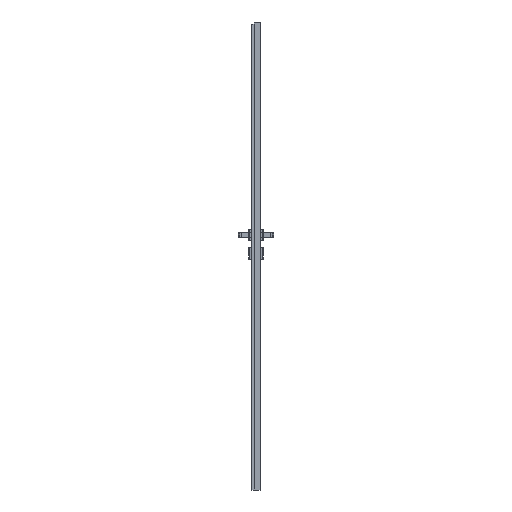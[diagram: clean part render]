
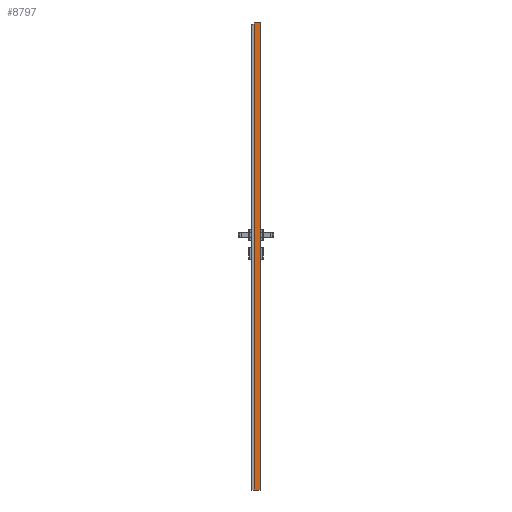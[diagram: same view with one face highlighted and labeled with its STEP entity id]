
A CAD part, left-side view. The second image highlights one B-rep face of the part: STEP entity #8797.
In plain terms, the highlighted planar face has unit normal (-1, 0, 0).
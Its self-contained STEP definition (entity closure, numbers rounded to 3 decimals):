
#5063=FACE_OUTER_BOUND('',#15821,.T.);
#8797=ADVANCED_FACE('',(#5063),#12549,.F.);
#12549=PLANE('',#62734);
#15821=EDGE_LOOP('',(#21181,#21182,#21183,#21184,#21185));
#21181=ORIENTED_EDGE('',*,*,#42884,.T.);
#21182=ORIENTED_EDGE('',*,*,#42885,.T.);
#21183=ORIENTED_EDGE('',*,*,#42850,.F.);
#21184=ORIENTED_EDGE('',*,*,#42875,.F.);
#21185=ORIENTED_EDGE('',*,*,#42880,.T.);
#37506=VERTEX_POINT('',#81087);
#37507=VERTEX_POINT('',#81088);
#37529=VERTEX_POINT('',#81138);
#37532=VERTEX_POINT('',#81149);
#37533=VERTEX_POINT('',#81155);
#42850=EDGE_CURVE('',#37506,#37507,#51190,.T.);
#42875=EDGE_CURVE('',#37529,#37506,#51215,.T.);
#42880=EDGE_CURVE('',#37529,#37532,#51220,.T.);
#42884=EDGE_CURVE('',#37532,#37533,#51224,.T.);
#42885=EDGE_CURVE('',#37533,#37507,#51225,.T.);
#51190=LINE('',#81086,#56890);
#51215=LINE('',#81139,#56915);
#51220=LINE('',#81148,#56920);
#51224=LINE('',#81154,#56924);
#51225=LINE('',#81156,#56925);
#56890=VECTOR('',#66569,1.);
#56915=VECTOR('',#66602,1.);
#56920=VECTOR('',#66611,1.);
#56924=VECTOR('',#66617,1.);
#56925=VECTOR('',#66618,1.);
#62734=AXIS2_PLACEMENT_3D('',#81157,#66619,#66620);
#66569=DIRECTION('',(0.,0.,-1.));
#66602=DIRECTION('',(0.,-1.,0.));
#66611=DIRECTION('',(0.,0.,-1.));
#66617=DIRECTION('',(0.,-1.,0.));
#66618=DIRECTION('',(0.,-0.707,0.707));
#66619=DIRECTION('',(1.,0.,0.));
#66620=DIRECTION('',(0.,0.,-1.));
#81086=CARTESIAN_POINT('',(-319.5,-39.3,2027.));
#81087=CARTESIAN_POINT('',(-319.5,-39.3,2027.));
#81088=CARTESIAN_POINT('',(-319.5,-39.3,2.));
#81138=CARTESIAN_POINT('',(-319.5,-11.5,2027.));
#81139=CARTESIAN_POINT('',(-319.5,-11.5,2027.));
#81148=CARTESIAN_POINT('',(-319.5,-11.5,2027.));
#81149=CARTESIAN_POINT('',(-319.5,-11.5,0.));
#81154=CARTESIAN_POINT('',(-319.5,-11.5,0.));
#81155=CARTESIAN_POINT('',(-319.5,-37.3,0.));
#81156=CARTESIAN_POINT('',(-319.5,-39.3,2.));
#81157=CARTESIAN_POINT('',(-319.5,-11.5,2027.));
